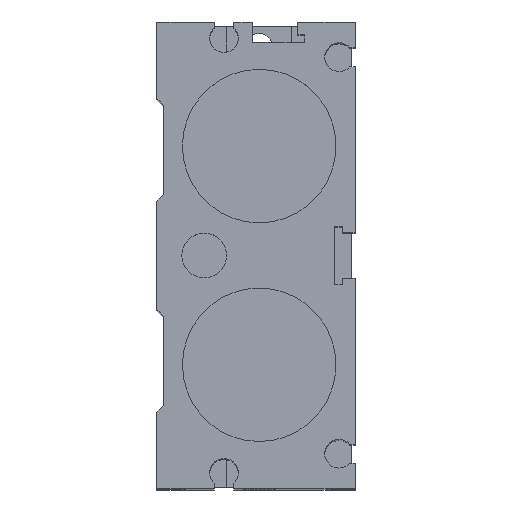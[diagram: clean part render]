
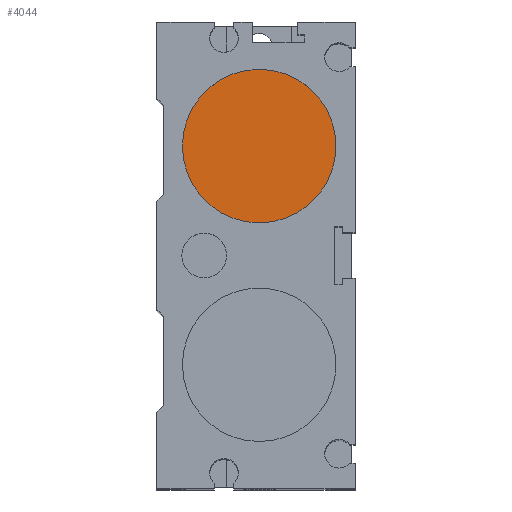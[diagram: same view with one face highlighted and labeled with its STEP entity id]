
A CAD part, top view. The second image highlights one B-rep face of the part: STEP entity #4044.
In plain terms, the highlighted planar face has unit normal (0, 0, 1).
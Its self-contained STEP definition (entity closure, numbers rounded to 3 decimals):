
#4021=CARTESIAN_POINT('',(12.,17.1,161.));
#4022=VERTEX_POINT('',#4021);
#4023=CARTESIAN_POINT('',(0.,17.1,161.));
#4024=DIRECTION('',(0.0,0.0,1.0));
#4025=DIRECTION('',(-1.0,0.0,0.0));
#4026=AXIS2_PLACEMENT_3D('',#4023,#4024,#4025);
#4027=CIRCLE('',#4026,12.);
#4028=EDGE_CURVE('',#4022,#4022,#4027,.T.);
#4036=CARTESIAN_POINT('',(0.,17.1,161.));
#4037=DIRECTION('',(0.0,0.0,-1.0));
#4038=DIRECTION('',(-1.0,0.0,0.0));
#4039=AXIS2_PLACEMENT_3D('',#4036,#4037,#4038);
#4040=PLANE('',#4039);
#4041=ORIENTED_EDGE('',*,*,#4028,.T.);
#4042=EDGE_LOOP('',(#4041));
#4043=FACE_OUTER_BOUND('',#4042,.T.);
#4044=ADVANCED_FACE('',(#4043),#4040,.F.);
